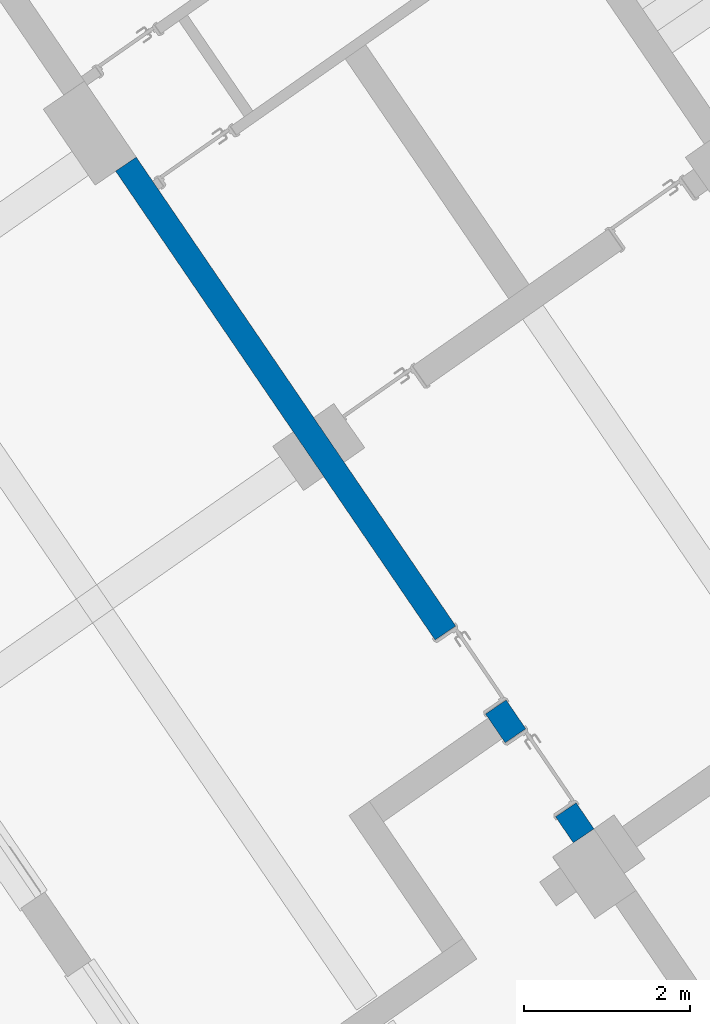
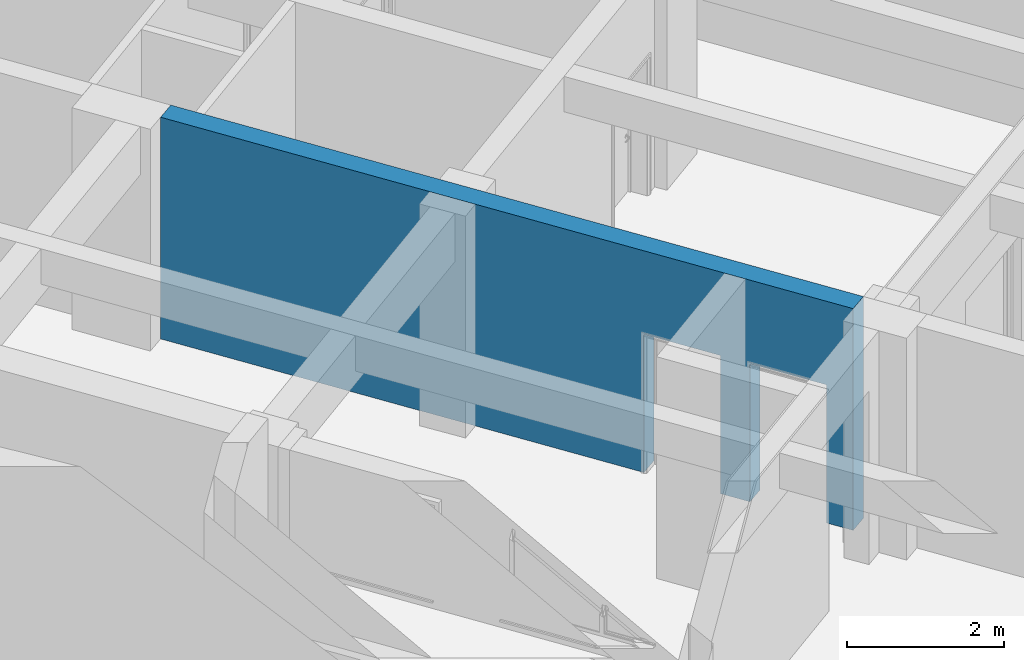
# One storey, part 66 of 112: 1 wall, 2 openings.
"""IFC2X3 building model written with IfcOpenShell, lengths in millimetres."""

from ifc_helpers import new_model, entity, si_unit, converted_unit, derived_unit, direction, frame, frame_2d, origin, place, context, subcontext, project, spatial, rectangle, extrude, material, layer, layer_set, layer_usage, type_object, element, save


model = new_model("IFC2X3")

# Units and contexts
model_context = context("Model", 3, precision=0.01, world=origin(), true_north=direction((6.123031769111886e-17, 1.0)))
body_context = subcontext(model_context, "Body", "Model", "MODEL_VIEW")
ifc_project = project(units=[si_unit("LENGTHUNIT", "METRE", prefix="MILLI"), si_unit("AREAUNIT", "SQUARE_METRE"), si_unit("VOLUMEUNIT", "CUBIC_METRE"), converted_unit("PLANEANGLEUNIT", "DEGREE", entity("IfcRatioMeasure", 0.017453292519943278), si_unit("PLANEANGLEUNIT", "RADIAN"), dimensions=[0, 0, 0, 0, 0, 0, 0]), si_unit("MASSUNIT", "GRAM", prefix="KILO"), derived_unit("MASSDENSITYUNIT", [(si_unit("MASSUNIT", "GRAM", prefix="KILO"), 1), (si_unit("LENGTHUNIT", "METRE"), -3)]), derived_unit("MOMENTOFINERTIAUNIT", [(si_unit("LENGTHUNIT", "METRE"), 4)]), si_unit("TIMEUNIT", "SECOND"), si_unit("FREQUENCYUNIT", "HERTZ"), si_unit("THERMODYNAMICTEMPERATUREUNIT", "DEGREE_CELSIUS"), derived_unit("THERMALTRANSMITTANCEUNIT", [(si_unit("MASSUNIT", "GRAM", prefix="KILO"), 1), (si_unit("THERMODYNAMICTEMPERATUREUNIT", "KELVIN"), -1), (si_unit("TIMEUNIT", "SECOND"), -3)]), derived_unit("THERMALCONDUCTANCEUNIT", [(si_unit("MASSUNIT", "GRAM", prefix="KILO"), 1), (si_unit("LENGTHUNIT", "METRE"), 1), (si_unit("THERMODYNAMICTEMPERATUREUNIT", "KELVIN"), -1), (si_unit("TIMEUNIT", "SECOND"), -3)]), derived_unit("VOLUMETRICFLOWRATEUNIT", [(si_unit("LENGTHUNIT", "METRE"), 3), (si_unit("TIMEUNIT", "SECOND"), -1)]), derived_unit("MASSFLOWRATEUNIT", [(si_unit("MASSUNIT", "GRAM", prefix="KILO"), 1), (si_unit("TIMEUNIT", "SECOND"), -1)]), derived_unit("ROTATIONALFREQUENCYUNIT", [(si_unit("TIMEUNIT", "SECOND"), -1)]), si_unit("ELECTRICCURRENTUNIT", "AMPERE"), si_unit("ELECTRICVOLTAGEUNIT", "VOLT"), si_unit("POWERUNIT", "WATT"), converted_unit("FORCEUNIT", "KIP", entity("IfcRatioMeasure", 2.088543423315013e-05), si_unit("FORCEUNIT", "NEWTON"), dimensions=[1, 1, -2, 0, 0, 0, 0]), si_unit("ILLUMINANCEUNIT", "LUX"), si_unit("LUMINOUSFLUXUNIT", "LUMEN"), si_unit("LUMINOUSINTENSITYUNIT", "CANDELA"), derived_unit("USERDEFINED", [(si_unit("MASSUNIT", "GRAM", prefix="KILO"), -1), (si_unit("LENGTHUNIT", "METRE"), -2), (si_unit("TIMEUNIT", "SECOND"), 3), (si_unit("LUMINOUSFLUXUNIT", "LUMEN"), 1)]), derived_unit("USERDEFINED", [(si_unit("MASSUNIT", "GRAM", prefix="KILO"), 1), (si_unit("LENGTHUNIT", "METRE"), 3), (si_unit("TIMEUNIT", "SECOND"), -3), (si_unit("ELECTRICCURRENTUNIT", "AMPERE"), -2)]), derived_unit("USERDEFINED", [(si_unit("LENGTHUNIT", "METRE"), 2), (si_unit("TIMEUNIT", "SECOND"), -2)]), derived_unit("SOUNDPOWERUNIT", [(si_unit("MASSUNIT", "GRAM", prefix="KILO"), 1), (si_unit("LENGTHUNIT", "METRE"), 2), (si_unit("TIMEUNIT", "SECOND"), -3)]), derived_unit("SOUNDPRESSUREUNIT", [(si_unit("MASSUNIT", "GRAM", prefix="KILO"), 1), (si_unit("LENGTHUNIT", "METRE"), -1), (si_unit("TIMEUNIT", "SECOND"), -2)]), derived_unit("LINEARVELOCITYUNIT", [(si_unit("LENGTHUNIT", "METRE"), 1), (si_unit("TIMEUNIT", "SECOND"), -1)]), si_unit("PRESSUREUNIT", "PASCAL"), derived_unit("USERDEFINED", [(si_unit("LENGTHUNIT", "METRE"), -2), (si_unit("MASSUNIT", "GRAM", prefix="KILO"), 1), (si_unit("TIMEUNIT", "SECOND"), -2)]), derived_unit("LINEARFORCEUNIT", [(si_unit("MASSUNIT", "GRAM", prefix="KILO"), 1), (si_unit("LENGTHUNIT", "METRE"), 1), (si_unit("TIMEUNIT", "SECOND"), -2), (si_unit("LENGTHUNIT", "METRE"), -1)]), derived_unit("PLANARFORCEUNIT", [(si_unit("MASSUNIT", "GRAM", prefix="KILO"), 1), (si_unit("LENGTHUNIT", "METRE"), 1), (si_unit("TIMEUNIT", "SECOND"), -2), (si_unit("LENGTHUNIT", "METRE"), -2)]), derived_unit("SPECIFICHEATCAPACITYUNIT", [(si_unit("LENGTHUNIT", "METRE"), 2), (si_unit("TIMEUNIT", "SECOND"), -2), (si_unit("THERMODYNAMICTEMPERATUREUNIT", "KELVIN"), -1)]), derived_unit("VAPORPERMEABILITYUNIT", [(si_unit("TIMEUNIT", "SECOND"), 1), (si_unit("LENGTHUNIT", "METRE"), -1)]), derived_unit("DYNAMICVISCOSITYUNIT", [(si_unit("MASSUNIT", "GRAM", prefix="KILO"), 1), (si_unit("LENGTHUNIT", "METRE"), -1), (si_unit("TIMEUNIT", "SECOND"), -1)]), derived_unit("THERMALEXPANSIONCOEFFICIENTUNIT", [(si_unit("THERMODYNAMICTEMPERATUREUNIT", "KELVIN"), -1)])], contexts=[model_context])

# Site, building, storey
site_placement = place(None, frame((0.0, 0.0, 0.0), z_axis=(0.0, 0.0, 1.0), x_axis=(0.8191520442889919, 0.5735764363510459, 0.0)))
site = spatial("IfcSite", under=ifc_project, at=site_placement, Name="Default", CompositionType="ELEMENT")
building_placement = place(site_placement, origin())
building = spatial("IfcBuilding", under=site, at=building_placement, CompositionType="ELEMENT")
storey_placement = place(building_placement, frame((0.0, 0.0, -3600.0)))
storey = spatial("IfcBuildingStorey", under=building, at=storey_placement, Name="0.UG -3.60", CompositionType="ELEMENT", Elevation=-3600.0000000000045)

# Wall, openings
ifc_material = material(Name="Analytical Wall Surface_CJC")
ifc_layer = layer(ifc_material, 300.0)
ifc_layer_set = layer_set([ifc_layer], Name="Basic Wall:Wand_Innen_30")
ifc_layer_usage = layer_usage(ifc_layer_set, "AXIS2", "POSITIVE", -150.0)
wall_type = type_object("IfcWallType", Name="Basic Wall:Wand_Innen_30", PredefinedType="STANDARD", material=ifc_layer_set)
wall_placement = place(storey_placement, frame((-216455.12692099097, 158323.26930935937, 0.0), z_axis=(0.0, 0.0, 1.0), x_axis=(0.012729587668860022, 0.9999189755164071, 0.0)))
wall = element("IfcWallStandardCase", 1, at=wall_placement, inside=storey, type_object=wall_type, material=ifc_layer_usage, Name="Basic Wall:Wand_Innen_30", ObjectType="Basic Wall:Wand_Innen_30", context=body_context, shape_type="SweptSolid", body=[
    extrude(rectangle(XDim=9800.793147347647, YDim=300.00000000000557, at=frame_2d((4900.396573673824, 5.101696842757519e-12), x_axis=(-1.0, 0.0))), origin(), (0.0, 0.0, 1.0), 3450.0),
])
opening_1_placement = place(wall_placement, frame((1459.9996810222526, 150.0, 0.0)))
element("IfcOpeningElement", 2, at=opening_1_placement, cuts=wall, Name="Doors_IntSgl:100x210:1", ObjectType="Opening", context=body_context, shape_type="SweptSolid", body=[
    extrude(rectangle(XDim=2150.000000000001, YDim=1079.9999999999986, at=frame_2d((1075.0000000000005, 539.9999999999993), x_axis=(1.0, 0.0))), frame((0.0, 0.0, 0.0), z_axis=(0.0, -1.0, 0.0), x_axis=(0.0, 0.0, 1.0)), (0.0, 0.0, 1.0), 299.9999999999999),
])
opening_2_placement = place(wall_placement, frame((2959.9996810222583, 150.0, 0.0)))
element("IfcOpeningElement", 3, at=opening_2_placement, cuts=wall, Name="Doors_IntSgl:100x210:1", ObjectType="Opening", context=body_context, shape_type="SweptSolid", body=[
    extrude(rectangle(XDim=2150.000000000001, YDim=1079.9999999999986, at=frame_2d((1075.0000000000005, 539.9999999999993), x_axis=(1.0, 0.0))), frame((0.0, 0.0, 0.0), z_axis=(0.0, -1.0, 0.0), x_axis=(0.0, 0.0, 1.0)), (0.0, 0.0, 1.0), 299.9999999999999),
])

save(model, "model.ifc")
